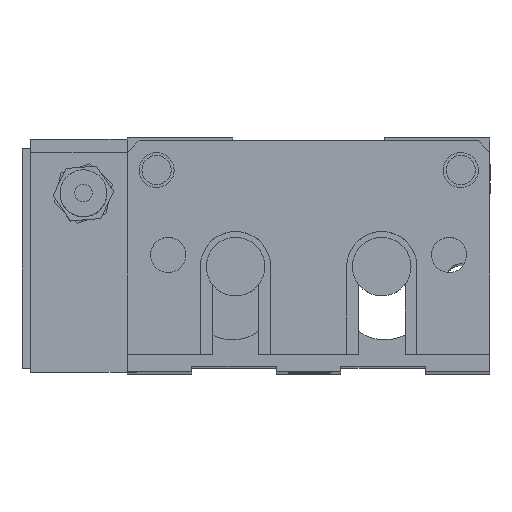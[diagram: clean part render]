
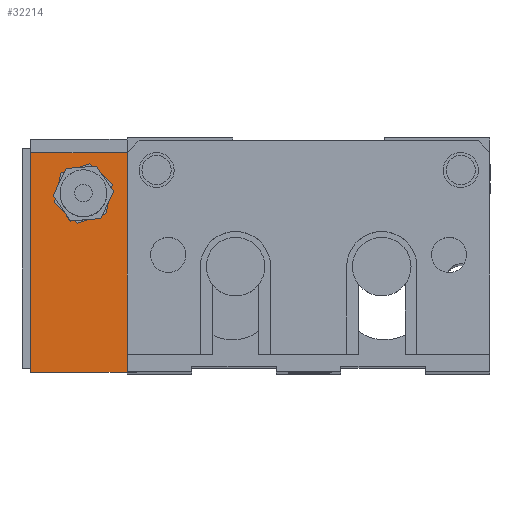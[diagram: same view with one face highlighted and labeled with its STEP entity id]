
A CAD part, top view. The second image highlights one B-rep face of the part: STEP entity #32214.
In plain terms, the highlighted planar face has unit normal (0, 0, 1) as drawn and (0, 0, -1) by its records, which use the part's own axes.
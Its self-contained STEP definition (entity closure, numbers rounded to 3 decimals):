
#26910 = CARTESIAN_POINT ( 'NONE',  ( 0., 37.5, 0. ) ) ;
#26911 = AXIS2_PLACEMENT_3D ( 'NONE', #26910, #27185, #27184 ) ;
#26916 = PLANE ( 'NONE',  #26911 ) ;
#27107 = CARTESIAN_POINT ( 'NONE',  ( 0., 0., 0. ) ) ;
#27151 = CARTESIAN_POINT ( 'NONE',  ( 0., 22.5, 0. ) ) ;
#27174 = FACE_BOUND ( 'NONE', #32203, .T. ) ;
#27183 = FACE_OUTER_BOUND ( 'NONE', #32194, .T. ) ;
#27184 = DIRECTION ( 'NONE',  ( -1., 0., 0. ) ) ;
#27185 = DIRECTION ( 'NONE',  ( 0., 0., -1. ) ) ;
#27217 = DIRECTION ( 'NONE',  ( 0., -1., 0. ) ) ;
#27218 = VECTOR ( 'NONE', #27217, 1000. ) ;
#27219 = CARTESIAN_POINT ( 'NONE',  ( 0., 0., 0. ) ) ;
#27220 = LINE ( 'NONE', #27219, #27218 ) ;
#27271 = CARTESIAN_POINT ( 'NONE',  ( 18., 37.5, 0. ) ) ;
#27294 = CARTESIAN_POINT ( 'NONE',  ( 18., 0., 0. ) ) ;
#27331 = DIRECTION ( 'NONE',  ( 0., 1., 0. ) ) ;
#27332 = VECTOR ( 'NONE', #27331, 1000. ) ;
#27333 = CARTESIAN_POINT ( 'NONE',  ( 18., 0., 0. ) ) ;
#27334 = LINE ( 'NONE', #27333, #27332 ) ;
#27353 = DIRECTION ( 'NONE',  ( 1., 0., 0. ) ) ;
#27354 = VECTOR ( 'NONE', #27353, 1000. ) ;
#27355 = CARTESIAN_POINT ( 'NONE',  ( 0., 0., 0. ) ) ;
#27356 = LINE ( 'NONE', #27355, #27354 ) ;
#27366 = LINE ( 'NONE', #27420, #27419 ) ;
#27367 = CARTESIAN_POINT ( 'NONE',  ( 1.5, 37.5, 0. ) ) ;
#27394 = CARTESIAN_POINT ( 'NONE',  ( 1.5, 22.5, 0. ) ) ;
#27415 = VECTOR ( 'NONE', #27433, 1000. ) ;
#27417 = CARTESIAN_POINT ( 'NONE',  ( 1.5, 22.5, 0. ) ) ;
#27418 = DIRECTION ( 'NONE',  ( -1., 0., 0. ) ) ;
#27419 = VECTOR ( 'NONE', #27418, 1000. ) ;
#27420 = CARTESIAN_POINT ( 'NONE',  ( 0., 37.5, 0. ) ) ;
#27433 = DIRECTION ( 'NONE',  ( 0., 1., 0. ) ) ;
#27443 = LINE ( 'NONE', #27394, #27415 ) ;
#27463 = CIRCLE ( 'NONE', #27508, 4. ) ;
#27493 = DIRECTION ( 'NONE',  ( -1., 0., 0. ) ) ;
#27494 = VECTOR ( 'NONE', #27493, 1000. ) ;
#27495 = CARTESIAN_POINT ( 'NONE',  ( 0., 22.5, 0. ) ) ;
#27496 = LINE ( 'NONE', #27495, #27494 ) ;
#27503 = DIRECTION ( 'NONE',  ( 1., 0., 0. ) ) ;
#27504 = DIRECTION ( 'NONE',  ( 0., 0., 1. ) ) ;
#27505 = CARTESIAN_POINT ( 'NONE',  ( 9., 30.5, 0. ) ) ;
#27508 = AXIS2_PLACEMENT_3D ( 'NONE', #27505, #27504, #27503 ) ;
#27722 = CARTESIAN_POINT ( 'NONE',  ( 13., 30.5, 0. ) ) ;
#27725 = DIRECTION ( 'NONE',  ( 1., 0., 0. ) ) ;
#27726 = DIRECTION ( 'NONE',  ( 0., 0., 1. ) ) ;
#27727 = AXIS2_PLACEMENT_3D ( 'NONE', #27731, #27726, #27725 ) ;
#27731 = CARTESIAN_POINT ( 'NONE',  ( 9., 30.5, 0. ) ) ;
#27747 = CIRCLE ( 'NONE', #27727, 4. ) ;
#27749 = CARTESIAN_POINT ( 'NONE',  ( 5., 30.5, 0. ) ) ;
#32005 = VERTEX_POINT ( 'NONE', #27107 ) ;
#32030 = VERTEX_POINT ( 'NONE', #27151 ) ;
#32057 = EDGE_CURVE ( 'NONE', #32030, #32005, #27220, .T. ) ;
#32102 = VERTEX_POINT ( 'NONE', #27294 ) ;
#32106 = VERTEX_POINT ( 'NONE', #27271 ) ;
#32124 = EDGE_CURVE ( 'NONE', #32005, #32102, #27356, .T. ) ;
#32143 = EDGE_CURVE ( 'NONE', #32102, #32106, #27334, .T. ) ;
#32163 = EDGE_CURVE ( 'NONE', #32106, #32165, #27366, .T. ) ;
#32165 = VERTEX_POINT ( 'NONE', #27367 ) ;
#32180 = ORIENTED_EDGE ( 'NONE', *, *, #32163, .F. ) ;
#32184 = ORIENTED_EDGE ( 'NONE', *, *, #32201, .T. ) ;
#32188 = ORIENTED_EDGE ( 'NONE', *, *, #32057, .F. ) ;
#32190 = ORIENTED_EDGE ( 'NONE', *, *, #32143, .F. ) ;
#32192 = VERTEX_POINT ( 'NONE', #27417 ) ;
#32194 = EDGE_LOOP ( 'NONE', ( #32184, #32180, #32190, #32242, #32188, #32266 ) ) ;
#32201 = EDGE_CURVE ( 'NONE', #32192, #32165, #27443, .T. ) ;
#32203 = EDGE_LOOP ( 'NONE', ( #32231, #32239 ) ) ;
#32214 = ADVANCED_FACE ( 'NONE', ( #27183, #27174 ), #26916, .T. ) ;
#32231 = ORIENTED_EDGE ( 'NONE', *, *, #32238, .T. ) ;
#32238 = EDGE_CURVE ( 'NONE', #32546, #32561, #27463, .T. ) ;
#32239 = ORIENTED_EDGE ( 'NONE', *, *, #32584, .T. ) ;
#32242 = ORIENTED_EDGE ( 'NONE', *, *, #32124, .F. ) ;
#32255 = EDGE_CURVE ( 'NONE', #32192, #32030, #27496, .T. ) ;
#32266 = ORIENTED_EDGE ( 'NONE', *, *, #32255, .F. ) ;
#32546 = VERTEX_POINT ( 'NONE', #27722 ) ;
#32561 = VERTEX_POINT ( 'NONE', #27749 ) ;
#32584 = EDGE_CURVE ( 'NONE', #32561, #32546, #27747, .T. ) ;
